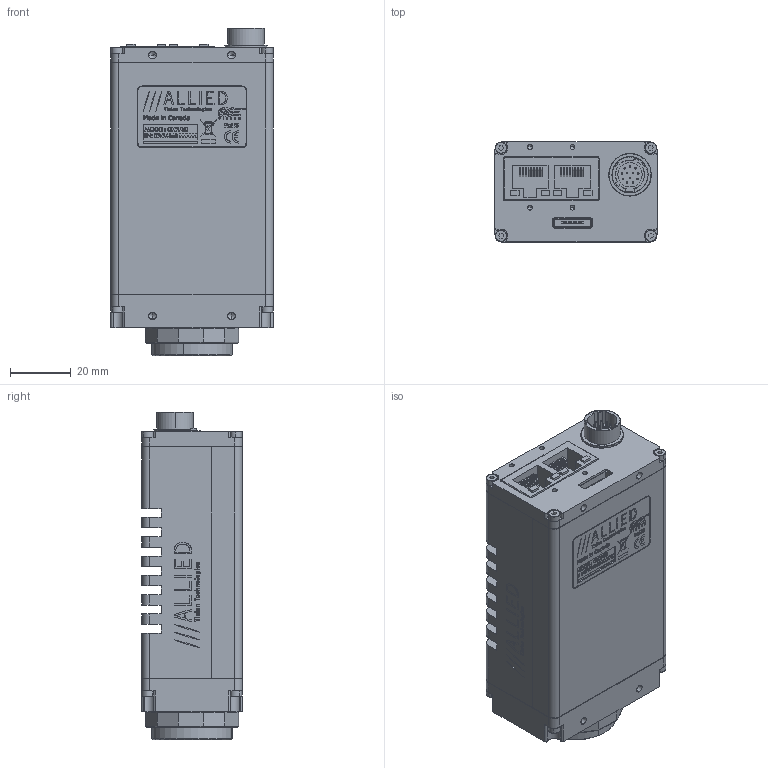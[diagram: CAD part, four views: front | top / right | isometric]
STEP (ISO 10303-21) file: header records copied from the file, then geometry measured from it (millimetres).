
FILE_DESCRIPTION (( 'STEP AP214' ), '1' );
FILE_NAME ('GX2750.STEP', '2013-08-07T19:22:07', ( '' ), ( '' ), 'SwSTEP 2.0', 'SolidWorks 2013', '' );
FILE_SCHEMA (( 'AUTOMOTIVE_DESIGN' ));
Length unit declared in the file: millimetre
Products named in the file (22): 200115B-GX POWER PCBA FOR SONY; 260048-HIROSE 3260-8S3; 110099B-GX BOTTOM COVER-THERMAL_Finished; 100171A - GX BACK ASSY; 110097A-GX BACK PLATE; 260034-HIROSE HR10A-10R-12PB; 200114B-GX MAIN PCBA FOR SONY; 260043-HALO HFJ12-1G16ER-L12RL; 110100B-GX TOP COVER-THERMAL_Finished; 100188A - GX2750 FRONT ASSY; 140061-SCREW SKT CAP M2x8 SS; 110103A-GX CCD GASKET; 740142B-GX2750 LABEL PRINT; 220231-SONY ICX694ALG; SONY ICX694 BODY; GX2750; SONY ICX694 WINDOW; 110031A-B EC-CCD LOCKING RING; 110003AC-CV CMOUNT RING; 110118A-GX FRONT PLATE SONY; 740102B-GX SERIES LABEL; 100172D - GX BODY ASSY SONY-THERMAL
Assembly tree (28 placements, depth 4):
  GX2750
    740142B-GX2750 LABEL PRINT
    100172D - GX BODY ASSY SONY-THERMAL
      140061-SCREW SKT CAP M2x8 SS  x4
      110100B-GX TOP COVER-THERMAL_Finished
      200114B-GX MAIN PCBA FOR SONY
        260043-HALO HFJ12-1G16ER-L12RL
      100171A - GX BACK ASSY
        260034-HIROSE HR10A-10R-12PB
        110097A-GX BACK PLATE
      110099B-GX BOTTOM COVER-THERMAL_Finished
      200115B-GX POWER PCBA FOR SONY
        260048-HIROSE 3260-8S3
    740102B-GX SERIES LABEL
    140061-SCREW SKT CAP M2x8 SS  x4
    100188A - GX2750 FRONT ASSY
      110118A-GX FRONT PLATE SONY
      110003AC-CV CMOUNT RING
      110031A-B EC-CCD LOCKING RING
      220231-SONY ICX694ALG
        SONY ICX694 WINDOW
        SONY ICX694 BODY
      110103A-GX CCD GASKET
Bounding box: 53.39 x 33.02 x 107.77 mm (x, y, z)
Volume: 80087 mm3; surface area: 72266.6 mm2
Topology: 67 solids, 67 shells, 4070 faces, 10556 edges, 6866 vertices
Faces by surface type: plane 2250, bspline 889, cylinder 691, cone 240
Entity records: 196383 total; most frequent: CARTESIAN_POINT 60077, ORIENTED_EDGE 20336, DIRECTION 16070, EDGE_CURVE 10168, LINE 6926, VECTOR 6926, VERTEX_POINT 6698, AXIS2_PLACEMENT_3D 4572
